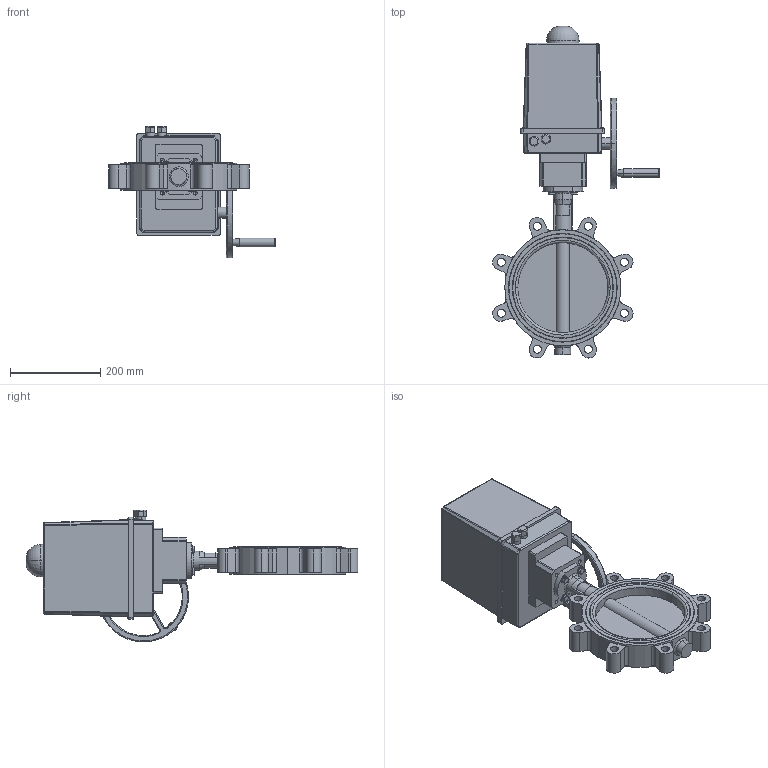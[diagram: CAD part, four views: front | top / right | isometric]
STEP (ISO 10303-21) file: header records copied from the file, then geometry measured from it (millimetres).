
FILE_DESCRIPTION (( 'STEP AP214' ), '1' );
FILE_NAME ('67667.step', '2020-10-26T06:44:45', ( '' ), ( '' ), 'SwSTEP 2.0', 'SolidWorks 2019', '' );
FILE_SCHEMA (( 'AUTOMOTIVE_DESIGN' ));
Length unit declared in the file: millimetre
Products named in the file (6): PSQ 203_PSQ 203-60-24VDC-F07; U-Scheibe DIN 125 A_M8; Steckkupplung PSQ 203_PSQ 203 VK-17; 6kt-Schr DIN 933_M8x25; 67667; TL20-0200_M01
Assembly tree (11 placements, depth 2):
  67667
    TL20-0200_M01
    PSQ 203_PSQ 203-60-24VDC-F07
    Steckkupplung PSQ 203_PSQ 203 VK-17
    6kt-Schr DIN 933_M8x25  x4
    U-Scheibe DIN 125 A_M8  x4
Bounding box: 369.58 x 735.57 x 292 mm (x, y, z)
Volume: 12087871.9 mm3; surface area: 657779.7 mm2
Topology: 11 solids, 11 shells, 839 faces, 2140 edges, 1331 vertices
Faces by surface type: cylinder 358, plane 336, cone 64, torus 57, sphere 16, bspline 8
Entity records: 26882 total; most frequent: CARTESIAN_POINT 5358, DIRECTION 4098, ORIENTED_EDGE 3800, EDGE_CURVE 1900, AXIS2_PLACEMENT_3D 1548, VERTEX_POINT 1211, VECTOR 1002, LINE 1002
